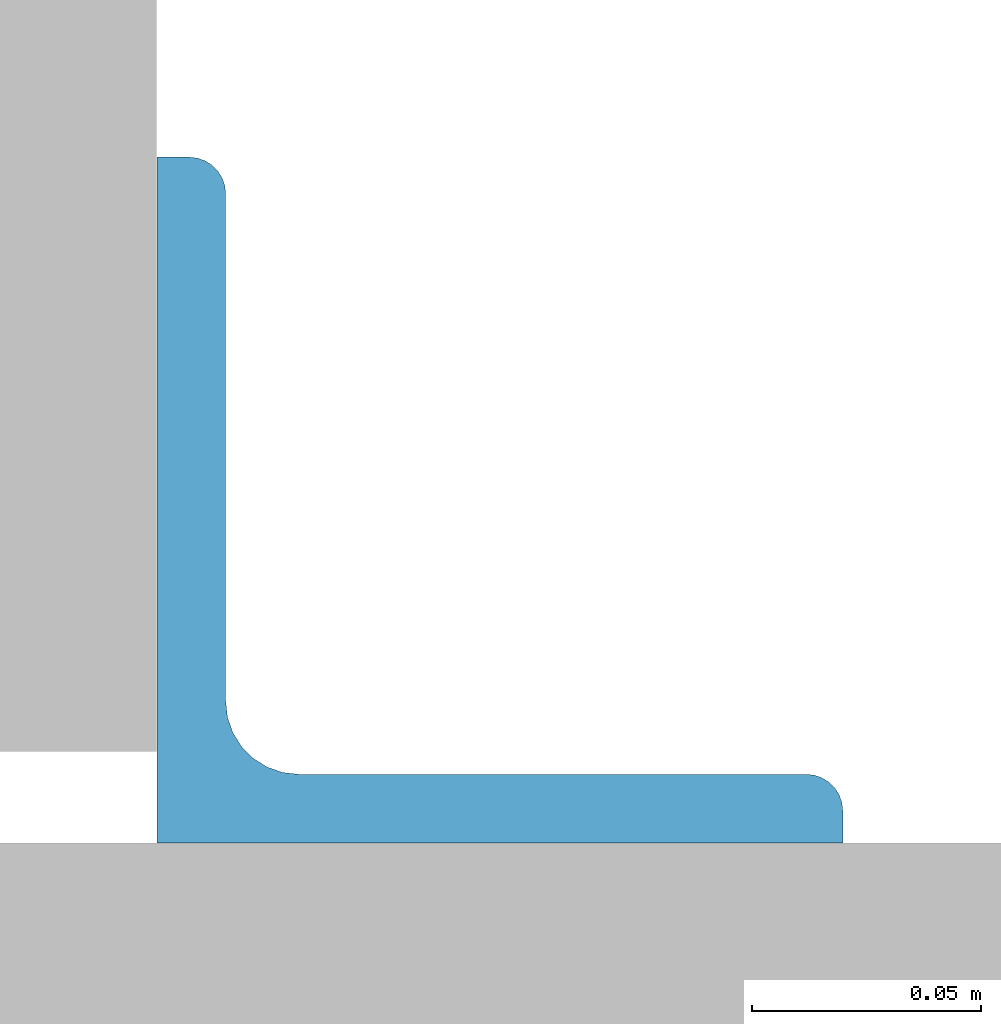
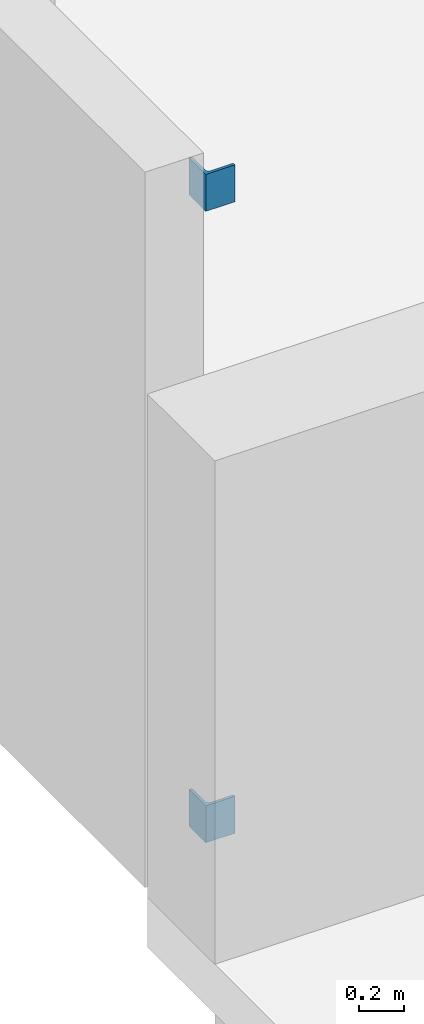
# One storey, part 7 of 27: 2 columns.
"""IFC2X3 building model written with IfcOpenShell, lengths in millimetres."""

from ifc_helpers import new_model, entity, si_unit, converted_unit, derived_unit, direction, frame, frame_2d, origin, place, context, subcontext, project, spatial, polyline, circle_curve, parameter, trimmed, segment, composite_curve, outline, extrude, source, transform, mapped, material, type_object, type_shapes, element, save


model = new_model("IFC2X3")

# Units and contexts
model_context = context("Model", 3, precision=0.01, world=origin(), true_north=direction((6.12303176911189e-17, 1.0)))
body_context = subcontext(model_context, "Body", "Model", "MODEL_VIEW")
ifc_project = project(units=[si_unit("LENGTHUNIT", "METRE", prefix="MILLI"), si_unit("AREAUNIT", "SQUARE_METRE"), si_unit("VOLUMEUNIT", "CUBIC_METRE"), converted_unit("PLANEANGLEUNIT", "DEGREE", entity("IfcRatioMeasure", 0.0174532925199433), si_unit("PLANEANGLEUNIT", "RADIAN"), dimensions=[0, 0, 0, 0, 0, 0, 0]), si_unit("MASSUNIT", "GRAM", prefix="KILO"), derived_unit("MASSDENSITYUNIT", [(si_unit("MASSUNIT", "GRAM", prefix="KILO"), 1), (si_unit("LENGTHUNIT", "METRE"), -3)]), si_unit("TIMEUNIT", "SECOND"), si_unit("FREQUENCYUNIT", "HERTZ"), si_unit("THERMODYNAMICTEMPERATUREUNIT", "DEGREE_CELSIUS"), derived_unit("THERMALTRANSMITTANCEUNIT", [(si_unit("MASSUNIT", "GRAM", prefix="KILO"), 1), (si_unit("THERMODYNAMICTEMPERATUREUNIT", "KELVIN"), -1), (si_unit("TIMEUNIT", "SECOND"), -3)]), derived_unit("VOLUMETRICFLOWRATEUNIT", [(si_unit("LENGTHUNIT", "METRE"), 3), (si_unit("TIMEUNIT", "SECOND"), -1)]), si_unit("ELECTRICCURRENTUNIT", "AMPERE"), si_unit("ELECTRICVOLTAGEUNIT", "VOLT"), si_unit("POWERUNIT", "WATT"), si_unit("FORCEUNIT", "NEWTON", prefix="KILO"), si_unit("ILLUMINANCEUNIT", "LUX"), si_unit("LUMINOUSFLUXUNIT", "LUMEN"), si_unit("LUMINOUSINTENSITYUNIT", "CANDELA"), derived_unit("USERDEFINED", [(si_unit("MASSUNIT", "GRAM", prefix="KILO"), -1), (si_unit("LENGTHUNIT", "METRE"), -2), (si_unit("TIMEUNIT", "SECOND"), 3), (si_unit("LUMINOUSFLUXUNIT", "LUMEN"), 1)]), derived_unit("LINEARVELOCITYUNIT", [(si_unit("LENGTHUNIT", "METRE"), 1), (si_unit("TIMEUNIT", "SECOND"), -1)]), si_unit("PRESSUREUNIT", "PASCAL"), derived_unit("USERDEFINED", [(si_unit("LENGTHUNIT", "METRE"), -2), (si_unit("MASSUNIT", "GRAM", prefix="KILO"), 1), (si_unit("TIMEUNIT", "SECOND"), -2)])], contexts=[model_context])

# Site, building, storey
site_placement = place(None, origin())
site = spatial("IfcSite", under=ifc_project, at=site_placement, Name="Default", CompositionType="ELEMENT")
building_placement = place(site_placement, origin())
building = spatial("IfcBuilding", under=site, at=building_placement, Name="niet gebruiken", CompositionType="ELEMENT")
storey_placement = place(building_placement, frame((0.0, 0.0, 6000.0)))
storey = spatial("IfcBuildingStorey", under=building, at=storey_placement, Name="01 eerste verdieping", CompositionType="ELEMENT", Elevation=6000.0)

# Columns
ifc_material = material(Name="NLRS_h2_staal")
column_type_1 = type_object("IfcColumnType", Name="kolomgelijzijdig hoekprofiel LEQU_150x150x15", PredefinedType="COLUMN", material=ifc_material)
shared_shape_1 = source(origin(), body_context, "Body", "SweptSolid", [
    extrude(outline(composite_curve([segment(polyline([(-93.3333333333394, -56.666666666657), (56.6666666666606, -56.666666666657)]), True, "CONTINUOUS"), segment(polyline([(56.6666666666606, -56.666666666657), (56.6666666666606, 93.333333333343)]), True, "CONTINUOUS"), segment(polyline([(56.6666666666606, 93.333333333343), (49.6666666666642, 93.333333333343)]), True, "CONTINUOUS"), segment(trimmed(circle_curve(frame_2d((49.666666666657, 85.333333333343), x_axis=(0.0, 1.0)), 7.99999999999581), [parameter(0.0)], [parameter(90.0000000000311)], True, "PARAMETER"), True, "CONTINUOUS"), segment(polyline([(41.6666666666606, 85.333333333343), (41.6666666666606, -25.6666666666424)]), True, "CONTINUOUS"), segment(trimmed(circle_curve(frame_2d((25.6666666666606, -25.6666666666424), x_axis=(1.0, 0.0)), 15.999999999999), [parameter(270.0)], [parameter(0.0)], True, "PARAMETER"), False, "CONTINUOUS"), segment(polyline([(25.6666666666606, -41.666666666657), (-85.3333333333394, -41.666666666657)]), True, "CONTINUOUS"), segment(trimmed(circle_curve(frame_2d((-85.3333333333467, -49.666666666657), x_axis=(0.0, 1.0)), 7.99999999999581), [parameter(0.0)], [parameter(90.0000000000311)], True, "PARAMETER"), True, "CONTINUOUS"), segment(polyline([(-93.3333333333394, -49.666666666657), (-93.3333333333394, -56.666666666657)]), True, "CONTINUOUS")], self_intersect=False)), frame((124606.766666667, 25106.6666666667, 9525.0), z_axis=(0.0, 0.0, 1.0), x_axis=(0.0, -1.0, 0.0)), (0.0, 0.0, 1.0), 199.999999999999),
])
type_shapes(column_type_1, [shared_shape_1])
column_1_placement = place(storey_placement, frame((0.0, 0.0, -6000.0)))
element("IfcColumn", 1, at=column_1_placement, inside=storey, type_object=column_type_1, material=ifc_material, Name="NLRS_28.11_SCO_TLB_stalen kolom hoekprofiel gelijkzijdig_gen:kolomgelijzijdig hoekprofiel LEQU_150x150x15", ObjectType="kolomgelijzijdig hoekprofiel LEQU_150x150x15", context=body_context, shape_type="MappedRepresentation", body=[
    mapped(shared_shape_1, transform((0.0, 0.0, 0.0), scale=1.0)),
])
column_type_2 = type_object("IfcColumnType", Name="kolomgelijzijdig hoekprofiel LEQU_150x150x15", PredefinedType="COLUMN", material=ifc_material)
shared_shape_2 = source(origin(), body_context, "Body", "SweptSolid", [
    extrude(outline(composite_curve([segment(polyline([(-93.3333333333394, -56.666666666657), (56.6666666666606, -56.666666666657)]), True, "CONTINUOUS"), segment(polyline([(56.6666666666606, -56.666666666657), (56.6666666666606, 93.333333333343)]), True, "CONTINUOUS"), segment(polyline([(56.6666666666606, 93.333333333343), (49.6666666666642, 93.333333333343)]), True, "CONTINUOUS"), segment(trimmed(circle_curve(frame_2d((49.6666666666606, 85.333333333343), x_axis=(0.0, 1.0)), 7.99999999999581), [parameter(0.0)], [parameter(90.0000000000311)], True, "PARAMETER"), True, "CONTINUOUS"), segment(polyline([(41.6666666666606, 85.333333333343), (41.6666666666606, -25.6666666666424)]), True, "CONTINUOUS"), segment(trimmed(circle_curve(frame_2d((25.6666666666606, -25.6666666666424), x_axis=(1.0, 0.0)), 15.999999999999), [parameter(270.0)], [parameter(0.0)], True, "PARAMETER"), False, "CONTINUOUS"), segment(polyline([(25.6666666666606, -41.666666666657), (-85.3333333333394, -41.666666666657)]), True, "CONTINUOUS"), segment(trimmed(circle_curve(frame_2d((-85.333333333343, -49.666666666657), x_axis=(0.0, 1.0)), 7.99999999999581), [parameter(0.0)], [parameter(90.0000000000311)], True, "PARAMETER"), True, "CONTINUOUS"), segment(polyline([(-93.3333333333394, -49.666666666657), (-93.3333333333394, -56.666666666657)]), True, "CONTINUOUS")], self_intersect=False)), frame((124606.766666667, 25106.6666666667, 6100.0), z_axis=(0.0, 0.0, 1.0), x_axis=(0.0, -1.0, 0.0)), (0.0, 0.0, 1.0), 200.0),
])
type_shapes(column_type_2, [shared_shape_2])
column_2_placement = place(storey_placement, frame((0.0, 0.0, -6000.0)))
element("IfcColumn", 2, at=column_2_placement, inside=storey, type_object=column_type_2, material=ifc_material, Name="NLRS_28.11_SCO_TLB_stalen kolom hoekprofiel gelijkzijdig_gen:kolomgelijzijdig hoekprofiel LEQU_150x150x15", ObjectType="kolomgelijzijdig hoekprofiel LEQU_150x150x15", context=body_context, shape_type="MappedRepresentation", body=[
    mapped(shared_shape_2, transform((0.0, 0.0, 0.0), scale=1.0)),
])

save(model, "model.ifc")
